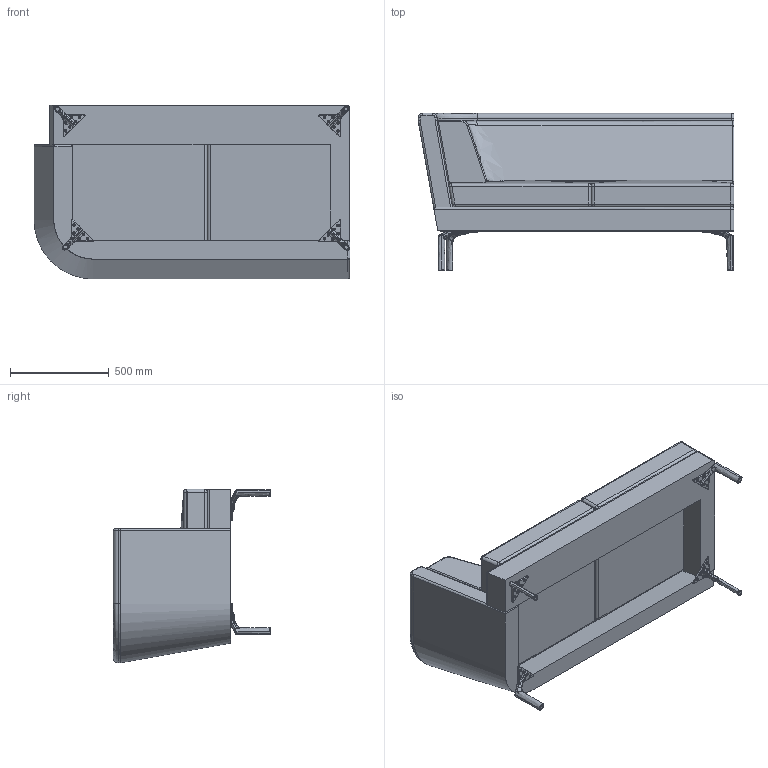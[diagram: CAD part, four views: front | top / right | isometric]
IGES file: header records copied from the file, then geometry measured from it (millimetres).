
Start section: SolidWorks IGES file using analytic representation for surfaces
Global section: file name: P:\3D CAD BLOCKS\ENTENTE\ENT7L ENTENTE 2S SINGLE ARM LOW BACK\ENT7L ENTENTE 2S SINGLE ARM LOW BACK.IGS; native system: SolidWorks 2012; preprocessor: SolidWorks 2012; author: adam; date: 140710.123319; units: millimetre
Bounding box: 1600 x 797.5 x 880 mm (x, y, z)
Surface area: 8747849.7 mm2 (no closed solid volume)
Topology: 0 solids, 0 shells, 644 faces, 7807 edges, 7796 vertices
Faces by surface type: bspline 352, revolution 292
